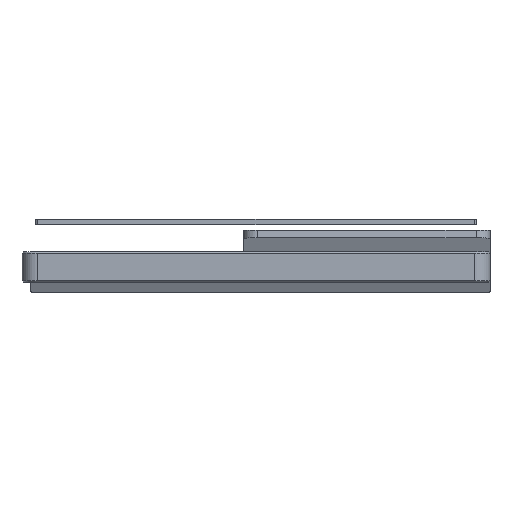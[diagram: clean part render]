
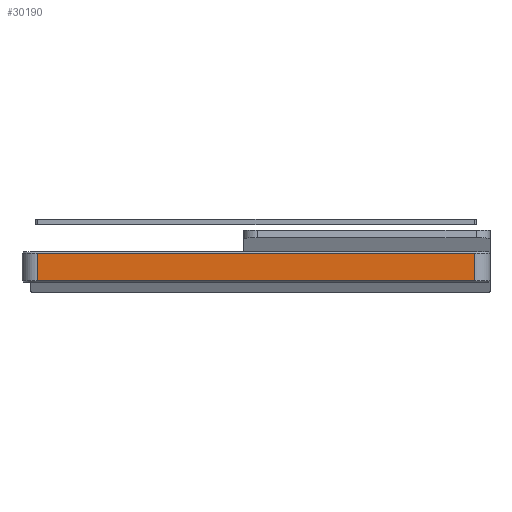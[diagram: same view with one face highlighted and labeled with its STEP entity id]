
A CAD part, front view. The second image highlights one B-rep face of the part: STEP entity #30190.
In plain terms, the highlighted planar face has unit normal (0, -1, 0).
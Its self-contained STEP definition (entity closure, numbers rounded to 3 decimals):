
#377 = PLANE('',#378);
#378 = AXIS2_PLACEMENT_3D('',#379,#380,#381);
#379 = CARTESIAN_POINT('',(293.6,0.5,19.247));
#380 = DIRECTION('',(0.,0.707,-0.707));
#381 = DIRECTION('',(-1.,0.,-0.));
#3149 = CYLINDRICAL_SURFACE('',#3150,10.);
#3150 = AXIS2_PLACEMENT_3D('',#3151,#3152,#3153);
#3151 = CARTESIAN_POINT('',(10.,10.,0.));
#3152 = DIRECTION('',(-0.,-0.,-1.));
#3153 = DIRECTION('',(1.,0.,0.));
#27532 = PLANE('',#27533);
#27533 = AXIS2_PLACEMENT_3D('',#27534,#27535,#27536);
#27534 = CARTESIAN_POINT('',(293.6,0.4,0.4));
#27535 = DIRECTION('',(0.,-0.707,-0.707));
#27536 = DIRECTION('',(-1.,-0.,0.));
#30058 = CYLINDRICAL_SURFACE('',#30059,10.);
#30059 = AXIS2_PLACEMENT_3D('',#30060,#30061,#30062);
#30060 = CARTESIAN_POINT('',(293.6,10.,0.));
#30061 = DIRECTION('',(-0.,-0.,-1.));
#30062 = DIRECTION('',(1.,0.,0.));
#30116 = EDGE_CURVE('',#30117,#30119,#30121,.T.);
#30117 = VERTEX_POINT('',#30118);
#30118 = CARTESIAN_POINT('',(293.6,0.,0.8));
#30119 = VERTEX_POINT('',#30120);
#30120 = CARTESIAN_POINT('',(293.6,0.,18.747));
#30121 = SURFACE_CURVE('',#30122,(#30126,#30133),.PCURVE_S1.);
#30122 = LINE('',#30123,#30124);
#30123 = CARTESIAN_POINT('',(293.6,0.,0.));
#30124 = VECTOR('',#30125,1.);
#30125 = DIRECTION('',(0.,0.,1.));
#30126 = PCURVE('',#30058,#30127);
#30127 = DEFINITIONAL_REPRESENTATION('',(#30128),#30132);
#30128 = LINE('',#30129,#30130);
#30129 = CARTESIAN_POINT('',(-4.712,0.));
#30130 = VECTOR('',#30131,1.);
#30131 = DIRECTION('',(-0.,-1.));
#30132 = ( GEOMETRIC_REPRESENTATION_CONTEXT(2) 
PARAMETRIC_REPRESENTATION_CONTEXT() REPRESENTATION_CONTEXT('2D SPACE',''
  ) );
#30133 = PCURVE('',#30134,#30139);
#30134 = PLANE('',#30135);
#30135 = AXIS2_PLACEMENT_3D('',#30136,#30137,#30138);
#30136 = CARTESIAN_POINT('',(10.,0.,0.));
#30137 = DIRECTION('',(0.,1.,0.));
#30138 = DIRECTION('',(1.,0.,0.));
#30139 = DEFINITIONAL_REPRESENTATION('',(#30140),#30144);
#30140 = LINE('',#30141,#30142);
#30141 = CARTESIAN_POINT('',(283.6,0.));
#30142 = VECTOR('',#30143,1.);
#30143 = DIRECTION('',(0.,-1.));
#30144 = ( GEOMETRIC_REPRESENTATION_CONTEXT(2) 
PARAMETRIC_REPRESENTATION_CONTEXT() REPRESENTATION_CONTEXT('2D SPACE',''
  ) );
#30190 = ADVANCED_FACE('',(#30191),#30134,.F.);
#30191 = FACE_BOUND('',#30192,.F.);
#30192 = EDGE_LOOP('',(#30193,#30218,#30239,#30240));
#30193 = ORIENTED_EDGE('',*,*,#30194,.T.);
#30194 = EDGE_CURVE('',#30195,#30197,#30199,.T.);
#30195 = VERTEX_POINT('',#30196);
#30196 = CARTESIAN_POINT('',(10.,0.,0.8));
#30197 = VERTEX_POINT('',#30198);
#30198 = CARTESIAN_POINT('',(10.,0.,18.747));
#30199 = SURFACE_CURVE('',#30200,(#30204,#30211),.PCURVE_S1.);
#30200 = LINE('',#30201,#30202);
#30201 = CARTESIAN_POINT('',(10.,0.,0.));
#30202 = VECTOR('',#30203,1.);
#30203 = DIRECTION('',(0.,0.,1.));
#30204 = PCURVE('',#30134,#30205);
#30205 = DEFINITIONAL_REPRESENTATION('',(#30206),#30210);
#30206 = LINE('',#30207,#30208);
#30207 = CARTESIAN_POINT('',(0.,0.));
#30208 = VECTOR('',#30209,1.);
#30209 = DIRECTION('',(0.,-1.));
#30210 = ( GEOMETRIC_REPRESENTATION_CONTEXT(2) 
PARAMETRIC_REPRESENTATION_CONTEXT() REPRESENTATION_CONTEXT('2D SPACE',''
  ) );
#30211 = PCURVE('',#3149,#30212);
#30212 = DEFINITIONAL_REPRESENTATION('',(#30213),#30217);
#30213 = LINE('',#30214,#30215);
#30214 = CARTESIAN_POINT('',(-4.712,0.));
#30215 = VECTOR('',#30216,1.);
#30216 = DIRECTION('',(-0.,-1.));
#30217 = ( GEOMETRIC_REPRESENTATION_CONTEXT(2) 
PARAMETRIC_REPRESENTATION_CONTEXT() REPRESENTATION_CONTEXT('2D SPACE',''
  ) );
#30218 = ORIENTED_EDGE('',*,*,#30219,.F.);
#30219 = EDGE_CURVE('',#30119,#30197,#30220,.T.);
#30220 = SURFACE_CURVE('',#30221,(#30225,#30232),.PCURVE_S1.);
#30221 = LINE('',#30222,#30223);
#30222 = CARTESIAN_POINT('',(293.6,0.,18.747));
#30223 = VECTOR('',#30224,1.);
#30224 = DIRECTION('',(-1.,-0.,-0.));
#30225 = PCURVE('',#30134,#30226);
#30226 = DEFINITIONAL_REPRESENTATION('',(#30227),#30231);
#30227 = LINE('',#30228,#30229);
#30228 = CARTESIAN_POINT('',(283.6,-18.747));
#30229 = VECTOR('',#30230,1.);
#30230 = DIRECTION('',(-1.,0.));
#30231 = ( GEOMETRIC_REPRESENTATION_CONTEXT(2) 
PARAMETRIC_REPRESENTATION_CONTEXT() REPRESENTATION_CONTEXT('2D SPACE',''
  ) );
#30232 = PCURVE('',#377,#30233);
#30233 = DEFINITIONAL_REPRESENTATION('',(#30234),#30238);
#30234 = LINE('',#30235,#30236);
#30235 = CARTESIAN_POINT('',(0.,-0.707));
#30236 = VECTOR('',#30237,1.);
#30237 = DIRECTION('',(1.,0.));
#30238 = ( GEOMETRIC_REPRESENTATION_CONTEXT(2) 
PARAMETRIC_REPRESENTATION_CONTEXT() REPRESENTATION_CONTEXT('2D SPACE',''
  ) );
#30239 = ORIENTED_EDGE('',*,*,#30116,.F.);
#30240 = ORIENTED_EDGE('',*,*,#30241,.T.);
#30241 = EDGE_CURVE('',#30117,#30195,#30242,.T.);
#30242 = SURFACE_CURVE('',#30243,(#30247,#30254),.PCURVE_S1.);
#30243 = LINE('',#30244,#30245);
#30244 = CARTESIAN_POINT('',(293.6,0.,0.8));
#30245 = VECTOR('',#30246,1.);
#30246 = DIRECTION('',(-1.,-0.,-0.));
#30247 = PCURVE('',#30134,#30248);
#30248 = DEFINITIONAL_REPRESENTATION('',(#30249),#30253);
#30249 = LINE('',#30250,#30251);
#30250 = CARTESIAN_POINT('',(283.6,-0.8));
#30251 = VECTOR('',#30252,1.);
#30252 = DIRECTION('',(-1.,0.));
#30253 = ( GEOMETRIC_REPRESENTATION_CONTEXT(2) 
PARAMETRIC_REPRESENTATION_CONTEXT() REPRESENTATION_CONTEXT('2D SPACE',''
  ) );
#30254 = PCURVE('',#27532,#30255);
#30255 = DEFINITIONAL_REPRESENTATION('',(#30256),#30260);
#30256 = LINE('',#30257,#30258);
#30257 = CARTESIAN_POINT('',(0.,-0.566));
#30258 = VECTOR('',#30259,1.);
#30259 = DIRECTION('',(1.,0.));
#30260 = ( GEOMETRIC_REPRESENTATION_CONTEXT(2) 
PARAMETRIC_REPRESENTATION_CONTEXT() REPRESENTATION_CONTEXT('2D SPACE',''
  ) );
